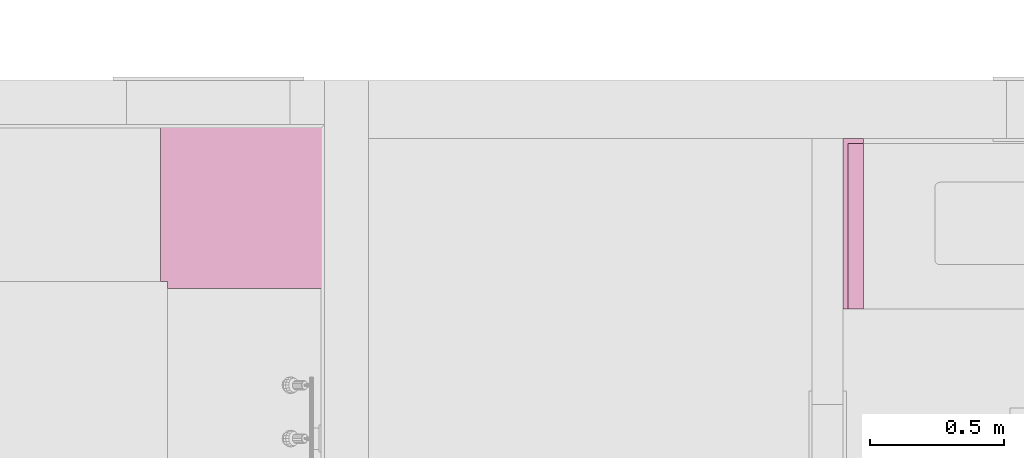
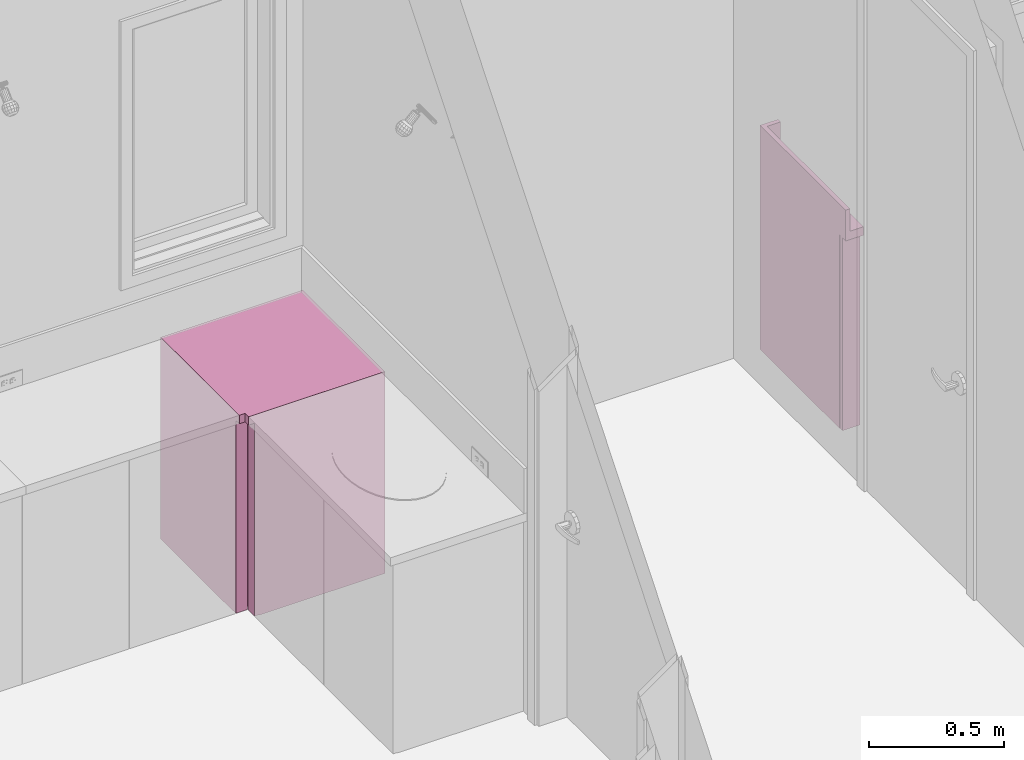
# One storey, part 52 of 103: 2 furnishings.
"""IFC2X3 building model written with IfcOpenShell, lengths in inches."""

from ifc_helpers import new_model, entity, si_unit, converted_unit, derived_unit, money_unit, direction, frame, origin_with_axes, place, context, subcontext, project, spatial, faceted_brep, type_object, element, save


model = new_model("IFC2X3")

# Units and contexts
model_context = context("Model", 3, precision=0.00039370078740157, world=origin_with_axes(), true_north=direction((0.0, 1.0)))
plan_context = context("Plan", 3, precision=0.00039370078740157, world=origin_with_axes(), true_north=direction((0.0, 1.0)))
body_context = subcontext(model_context, "Body", "Model", "MODEL_VIEW")
ifc_project = project(units=[converted_unit("LENGTHUNIT", "INCH", entity("IfcPositiveLengthMeasure", 0.0254), si_unit("LENGTHUNIT", "METRE"), dimensions=[1, 0, 0, 0, 0, 0, 0]), converted_unit("AREAUNIT", "SQUARE_FOOT", entity("IfcPositiveLengthMeasure", 0.09290304), si_unit("AREAUNIT", "SQUARE_METRE"), dimensions=[2, 0, 0, 0, 0, 0, 0]), si_unit("PLANEANGLEUNIT", "RADIAN"), si_unit("SOLIDANGLEUNIT", "STERADIAN"), money_unit("USD"), converted_unit("TIMEUNIT", "Year", entity("IfcTimeMeasure", 31557600.0), si_unit("TIMEUNIT", "SECOND"), dimensions=[0, 0, 1, 0, 0, 0, 0]), si_unit("MASSUNIT", "GRAM", prefix="KILO"), si_unit("THERMODYNAMICTEMPERATUREUNIT", "DEGREE_CELSIUS"), si_unit("LUMINOUSINTENSITYUNIT", "LUMEN"), si_unit("ENERGYUNIT", "JOULE", prefix="MEGA"), derived_unit("SPECIFICHEATCAPACITYUNIT", [(si_unit("ENERGYUNIT", "JOULE"), 1), (si_unit("MASSUNIT", "GRAM", prefix="KILO"), -1), (si_unit("THERMODYNAMICTEMPERATUREUNIT", "KELVIN"), -1)])], contexts=[model_context, plan_context])

# Site, building, storey
site_placement = place(None, origin_with_axes())
site = spatial("IfcSite", under=ifc_project, at=site_placement, Name="Site", CompositionType="ELEMENT")
building_placement = place(site_placement, origin_with_axes())
building = spatial("IfcBuilding", under=site, at=building_placement, Name="Building", CompositionType="ELEMENT")
storey_placement = place(building_placement, frame((0.0, 0.0, 127.9999999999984), z_axis=(0.0, 0.0, 1.0), x_axis=(1.0, 0.0, 0.0)))
storey = spatial("IfcBuildingStorey", under=building, at=storey_placement, Name="Second Floor", CompositionType="ELEMENT", Elevation=128.0)

# Furnishings
furniture_type_1 = type_object("IfcFurnitureType", Name="Base Cabinet Block", AssemblyPlace="NOTDEFINED")
furnishing_1_placement = place(storey_placement, frame((164.9999999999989, 568.0000000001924, 0.0), z_axis=(0.0, 0.0, 1.0), x_axis=(1.0, 0.0, 0.0)))
element("IfcFurnishingElement", 1, at=furnishing_1_placement, inside=storey, type_object=furniture_type_1, Name="FU - 007", context=body_context, shape_type="Brep", body=[
    faceted_brep([(0.0, -24.99999999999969, 34.49999999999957), (2.999999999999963, -24.99999999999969, 34.49999999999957), (2.999999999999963, -24.99999999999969, 35.99999999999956), (0.0, -24.99999999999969, 35.99999999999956), (0.0, 0.0, 34.49999999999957), (2.999999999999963, 0.0, 34.49999999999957), (2.999999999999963, 0.0, 35.99999999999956), (0.0, 0.0, 35.99999999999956)], [[[0, 1, 2, 3]], [[0, 4, 5, 1]], [[1, 5, 6, 2]], [[3, 2, 6, 7]], [[4, 0, 3, 7]], [[5, 4, 7, 6]]]),
    faceted_brep([(2.999999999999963, 0.0, 35.99999999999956), (2.999999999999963, -0.7499999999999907, 35.99999999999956), (0.7499999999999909, -0.7499999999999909, 35.99999999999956), (0.0, 0.0, 35.99999999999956), (2.999999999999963, 0.0, 39.99999999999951), (2.999999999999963, -0.7499999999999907, 39.99999999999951), (0.7499999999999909, -0.7499999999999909, 39.99999999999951), (0.0, 0.0, 39.99999999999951)], [[[0, 1, 2, 3]], [[0, 4, 5, 1]], [[1, 5, 6, 2]], [[3, 2, 6, 7]], [[4, 0, 3, 7]], [[5, 4, 7, 6]]]),
    faceted_brep([(0.0, 0.0, 35.99999999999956), (0.7499999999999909, -0.7499999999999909, 35.99999999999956), (0.7499999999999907, -24.99999999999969, 35.99999999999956), (0.0, -24.99999999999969, 35.99999999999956), (0.0, 0.0, 39.99999999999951), (0.7499999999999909, -0.7499999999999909, 39.99999999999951), (0.7499999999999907, -24.99999999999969, 39.99999999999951), (0.0, -24.99999999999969, 39.99999999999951)], [[[0, 1, 2, 3]], [[0, 4, 5, 1]], [[1, 5, 6, 2]], [[3, 2, 6, 7]], [[4, 0, 3, 7]], [[5, 4, 7, 6]]]),
    faceted_brep([(0.039370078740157, -23.24999999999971, 0.039370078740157), (2.960629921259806, -23.24999999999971, 0.039370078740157), (2.960629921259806, -23.9999999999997, 0.03937007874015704), (0.039370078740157, -23.9999999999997, 0.03937007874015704), (0.039370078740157, -23.24999999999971, 34.46062992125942), (2.960629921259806, -23.24999999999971, 34.46062992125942), (2.960629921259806, -23.9999999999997, 34.46062992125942), (0.039370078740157, -23.9999999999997, 34.46062992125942)], [[[0, 1, 2, 3]], [[0, 4, 5, 1]], [[1, 5, 6, 2]], [[3, 2, 6, 7]], [[4, 0, 3, 7]], [[5, 4, 7, 6]]]),
    faceted_brep([(0.7499999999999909, -23.24999999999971, 0.0), (2.249999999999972, -23.24999999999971, 0.0), (2.249999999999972, -23.24999999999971, 0.7499999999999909), (0.7499999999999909, -23.24999999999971, 0.7499999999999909), (0.7499999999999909, 0.0, 0.0), (2.249999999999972, 0.0, 0.0), (2.249999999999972, 0.0, 0.7499999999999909), (0.7499999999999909, 0.0, 0.7499999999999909)], [[[0, 1, 2, 3]], [[0, 4, 5, 1]], [[1, 5, 6, 2]], [[3, 2, 6, 7]], [[4, 0, 3, 7]], [[5, 4, 7, 6]]]),
    faceted_brep([(0.7499999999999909, -23.24999999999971, 33.74999999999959), (0.7499999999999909, -20.88779527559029, 33.74999999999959), (2.249999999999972, -20.88779527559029, 33.74999999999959), (2.249999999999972, -23.24999999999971, 33.74999999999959), (0.7499999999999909, -23.24999999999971, 34.49999999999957), (0.7499999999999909, -20.88779527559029, 34.49999999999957), (2.249999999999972, -20.88779527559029, 34.49999999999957), (2.249999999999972, -23.24999999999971, 34.49999999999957)], [[[0, 1, 2, 3]], [[0, 4, 5, 1]], [[1, 5, 6, 2]], [[3, 2, 6, 7]], [[4, 0, 3, 7]], [[5, 4, 7, 6]]]),
    faceted_brep([(2.249999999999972, 0.0, 33.74999999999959), (2.249999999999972, -2.36220472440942, 33.74999999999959), (0.7499999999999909, -2.36220472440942, 33.74999999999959), (0.7499999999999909, 0.0, 33.74999999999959), (2.249999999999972, 0.0, 34.49999999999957), (2.249999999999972, -2.36220472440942, 34.49999999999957), (0.7499999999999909, -2.36220472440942, 34.49999999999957), (0.7499999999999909, 0.0, 34.49999999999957)], [[[0, 1, 2, 3]], [[0, 4, 5, 1]], [[1, 5, 6, 2]], [[3, 2, 6, 7]], [[4, 0, 3, 7]], [[5, 4, 7, 6]]]),
    faceted_brep([(0.0, 0.0, 0.0), (0.0, -23.24999999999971, 0.0), (0.0, -23.24999999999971, 34.49999999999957), (0.0, 0.0, 34.49999999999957), (0.7499999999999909, 0.0, 0.0), (0.7499999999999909, -23.24999999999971, 0.0), (0.7499999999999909, -23.24999999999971, 34.49999999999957), (0.7499999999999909, 0.0, 34.49999999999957)], [[[0, 1, 2, 3]], [[0, 4, 5, 1]], [[1, 5, 6, 2]], [[3, 2, 6, 7]], [[4, 0, 3, 7]], [[5, 4, 7, 6]]]),
    faceted_brep([(2.999999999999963, -23.24999999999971, 0.0), (2.999999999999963, 0.0, 0.0), (2.999999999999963, 0.0, 34.49999999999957), (2.999999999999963, -23.24999999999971, 34.49999999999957), (2.249999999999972, -23.24999999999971, 0.0), (2.249999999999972, 0.0, 0.0), (2.249999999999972, 0.0, 34.49999999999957), (2.249999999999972, -23.24999999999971, 34.49999999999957)], [[[0, 1, 2, 3]], [[0, 4, 5, 1]], [[1, 5, 6, 2]], [[3, 2, 6, 7]], [[4, 0, 3, 7]], [[5, 4, 7, 6]]]),
    faceted_brep([(2.249999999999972, -0.3749999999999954, 0.7499999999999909), (0.7499999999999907, -0.3749999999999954, 0.7499999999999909), (0.7499999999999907, -0.3749999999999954, 33.74999999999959), (2.249999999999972, -0.3749999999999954, 33.74999999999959), (2.249999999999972, -0.7499999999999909, 0.7499999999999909), (0.7499999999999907, -0.7499999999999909, 0.7499999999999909), (0.7499999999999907, -0.7499999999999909, 33.74999999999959), (2.249999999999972, -0.7499999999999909, 33.74999999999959)], [[[0, 1, 2, 3]], [[0, 4, 5, 1]], [[1, 5, 6, 2]], [[3, 2, 6, 7]], [[4, 0, 3, 7]], [[5, 4, 7, 6]]]),
])
furniture_type_2 = type_object("IfcFurnitureType", Name="Base Cabinet Corner L", AssemblyPlace="NOTDEFINED")
furnishing_2_placement = place(storey_placement, frame((89.0000288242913, 570.0000000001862, 0.0), z_axis=(0.0, 0.0, 1.0), x_axis=(9.406550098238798e-08, -0.9999999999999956, 0.0)))
element("IfcFurnishingElement", 2, at=furnishing_2_placement, inside=storey, type_object=furniture_type_2, Name="FU - 025", context=body_context, shape_type="Brep", body=[
    faceted_brep([(0.0, -23.99999999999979, 34.49999999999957), (22.99999999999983, -23.99999999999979, 34.49999999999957), (22.99999999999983, -23.99999999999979, 35.99999999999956), (0.0, -23.99999999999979, 35.99999999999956), (0.0, -22.99999999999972, 34.49999999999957), (22.99999999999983, -22.99999999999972, 34.49999999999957), (22.99999999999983, -22.99999999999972, 35.99999999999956), (0.0, -22.99999999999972, 35.99999999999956)], [[[0, 1, 2, 3]], [[0, 4, 5, 1]], [[1, 5, 6, 2]], [[3, 2, 6, 7]], [[4, 0, 3, 7]], [[5, 4, 7, 6]]]),
    faceted_brep([(0.0, -22.99999999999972, 34.49999999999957), (23.9999999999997, -22.99999999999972, 34.49999999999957), (23.9999999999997, -22.99999999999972, 35.99999999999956), (0.0, -22.99999999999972, 35.99999999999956), (0.0, 0.0, 34.49999999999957), (23.9999999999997, 0.0, 34.49999999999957), (23.9999999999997, 0.0, 35.99999999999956), (0.0, 0.0, 35.99999999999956)], [[[0, 1, 2, 3]], [[0, 4, 5, 1]], [[1, 5, 6, 2]], [[3, 2, 6, 7]], [[4, 0, 3, 7]], [[5, 4, 7, 6]]]),
    faceted_brep([(23.96062992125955, -21.24999999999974, 0.039370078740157), (23.96062992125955, -21.99999999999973, 0.03937007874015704), (22.03209111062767, -21.99999999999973, 0.03937007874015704), (22.03209111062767, -21.24999999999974, 0.039370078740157), (23.96062992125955, -21.24999999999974, 34.46062992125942), (23.96062992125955, -21.99999999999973, 34.46062992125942), (22.03209111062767, -21.99999999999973, 34.46062992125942), (22.03209111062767, -21.24999999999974, 34.46062992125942)], [[[0, 1, 2, 3]], [[4, 5, 1, 0]], [[1, 5, 6, 2]], [[3, 2, 6, 7]], [[0, 3, 7, 4]], [[7, 6, 5, 4]]]),
    faceted_brep([(21.24272103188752, -22.03937007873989, 0.039370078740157), (21.99272103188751, -22.03937007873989, 0.03937007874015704), (21.99272103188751, -23.96062992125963, 0.03937007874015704), (21.24272103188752, -23.96062992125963, 0.039370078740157), (21.24272103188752, -22.03937007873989, 34.46062992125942), (21.99272103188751, -22.03937007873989, 34.46062992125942), (21.99272103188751, -23.96062992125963, 34.46062992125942), (21.24272103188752, -23.96062992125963, 34.46062992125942)], [[[0, 1, 2, 3]], [[4, 5, 1, 0]], [[1, 5, 6, 2]], [[3, 2, 6, 7]], [[0, 3, 7, 4]], [[7, 6, 5, 4]]]),
    faceted_brep([(0.0, -23.2499999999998, 0.0), (21.24272103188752, -23.2499999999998, 0.0), (21.24272103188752, -23.2499999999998, 0.7499999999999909), (0.0, -23.2499999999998, 0.7499999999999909), (0.0, 0.0, 0.0), (23.24999999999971, 0.0, 0.0), (23.24999999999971, -21.24999999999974, 0.0), (21.24272103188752, -21.24999999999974, 0.0), (21.24272103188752, -21.24999999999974, 0.7499999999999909), (23.24999999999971, -21.24999999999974, 0.7499999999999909), (23.24999999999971, 0.0, 0.7499999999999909), (0.0, 0.0, 0.7499999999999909)], [[[0, 1, 2, 3]], [[0, 4, 5, 6, 7, 1]], [[1, 7, 8, 2]], [[3, 2, 8, 9, 10, 11]], [[4, 0, 3, 11]], [[5, 4, 11, 10]], [[6, 5, 10, 9]], [[7, 6, 9, 8]]]),
    faceted_brep([(21.24272103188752, -23.2499999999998, 33.74999999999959), (18.8805163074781, -23.2499999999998, 33.74999999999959), (18.8805163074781, -18.88779527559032, 33.74999999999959), (21.24272103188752, -21.24999999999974, 33.74999999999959), (21.24272103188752, -23.2499999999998, 34.49999999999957), (18.8805163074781, -23.2499999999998, 34.49999999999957), (18.8805163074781, -18.88779527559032, 34.49999999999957), (21.24272103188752, -21.24999999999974, 34.49999999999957)], [[[0, 1, 2, 3]], [[0, 4, 5, 1]], [[1, 5, 6, 2]], [[3, 2, 6, 7]], [[4, 0, 3, 7]], [[5, 4, 7, 6]]]),
    faceted_brep([(21.24272103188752, -21.24999999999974, 33.74999999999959), (18.8805163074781, -18.88779527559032, 33.74999999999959), (23.24999999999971, -18.88779527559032, 33.74999999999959), (23.24999999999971, -21.24999999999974, 33.74999999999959), (21.24272103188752, -21.24999999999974, 34.49999999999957), (18.8805163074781, -18.88779527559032, 34.49999999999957), (23.24999999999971, -18.88779527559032, 34.49999999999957), (23.24999999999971, -21.24999999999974, 34.49999999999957)], [[[0, 1, 2, 3]], [[0, 4, 5, 1]], [[1, 5, 6, 2]], [[3, 2, 6, 7]], [[4, 0, 3, 7]], [[5, 4, 7, 6]]]),
    faceted_brep([(23.24999999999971, 0.0, 33.74999999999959), (23.24999999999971, -2.362204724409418, 33.74999999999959), (2.36220472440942, -2.36220472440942, 33.74999999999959), (0.0, 0.0, 33.74999999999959), (23.24999999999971, 0.0, 34.49999999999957), (23.24999999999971, -2.362204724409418, 34.49999999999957), (2.36220472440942, -2.36220472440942, 34.49999999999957), (0.0, 0.0, 34.49999999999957)], [[[0, 1, 2, 3]], [[0, 4, 5, 1]], [[1, 5, 6, 2]], [[3, 2, 6, 7]], [[4, 0, 3, 7]], [[5, 4, 7, 6]]]),
    faceted_brep([(0.0, 0.0, 33.74999999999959), (2.36220472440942, -2.36220472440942, 33.74999999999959), (2.36220472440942, -23.2499999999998, 33.74999999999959), (0.0, -23.2499999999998, 33.74999999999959), (0.0, 0.0, 34.49999999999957), (2.36220472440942, -2.36220472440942, 34.49999999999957), (2.36220472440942, -23.2499999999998, 34.49999999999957), (0.0, -23.2499999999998, 34.49999999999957)], [[[0, 1, 2, 3]], [[0, 4, 5, 1]], [[1, 5, 6, 2]], [[3, 2, 6, 7]], [[4, 0, 3, 7]], [[5, 4, 7, 6]]]),
    faceted_brep([(0.0, -23.99999999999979, 0.0), (21.24272103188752, -23.99999999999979, 0.0), (21.24272103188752, -23.99999999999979, 34.49999999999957), (0.0, -23.99999999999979, 34.49999999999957), (0.0, -23.2499999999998, 0.0), (21.24272103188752, -23.2499999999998, 0.0), (21.24272103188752, -23.2499999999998, 34.49999999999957), (0.0, -23.2499999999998, 34.49999999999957)], [[[0, 1, 2, 3]], [[0, 4, 5, 1]], [[1, 5, 6, 2]], [[3, 2, 6, 7]], [[4, 0, 3, 7]], [[5, 4, 7, 6]]]),
    faceted_brep([(0.0, 0.0, 0.7499999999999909), (0.0, -23.2499999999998, 0.7499999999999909), (0.0, -23.2499999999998, 33.74999999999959), (0.0, 0.0, 33.74999999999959), (0.7499999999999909, -0.7499999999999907, 0.7499999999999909), (0.7499999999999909, -23.2499999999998, 0.7499999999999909), (0.7499999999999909, -23.2499999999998, 33.74999999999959), (0.7499999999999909, -0.7499999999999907, 33.74999999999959)], [[[0, 1, 2, 3]], [[0, 4, 5, 1]], [[1, 5, 6, 2]], [[3, 2, 6, 7]], [[4, 0, 3, 7]], [[5, 4, 7, 6]]]),
    faceted_brep([(23.9999999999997, -21.24999999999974, 0.0), (23.9999999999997, 0.0, 0.0), (23.9999999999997, 0.0, 34.49999999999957), (23.9999999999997, -21.24999999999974, 34.49999999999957), (23.24999999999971, -21.24999999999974, 0.0), (23.24999999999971, 0.0, 0.0), (23.24999999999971, 0.0, 34.49999999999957), (23.24999999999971, -21.24999999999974, 34.49999999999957)], [[[0, 1, 2, 3]], [[0, 4, 5, 1]], [[1, 5, 6, 2]], [[3, 2, 6, 7]], [[4, 0, 3, 7]], [[5, 4, 7, 6]]]),
    faceted_brep([(23.24999999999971, 0.0, 0.7499999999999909), (0.0, 0.0, 0.7499999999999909), (0.0, 0.0, 33.74999999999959), (23.24999999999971, 0.0, 33.74999999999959), (23.24999999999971, -0.7499999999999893, 0.7499999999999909), (0.7499999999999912, -0.7499999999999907, 0.7499999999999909), (0.7499999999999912, -0.7499999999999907, 33.74999999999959), (23.24999999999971, -0.7499999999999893, 33.74999999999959)], [[[0, 1, 2, 3]], [[0, 4, 5, 1]], [[1, 5, 6, 2]], [[3, 2, 6, 7]], [[4, 0, 3, 7]], [[5, 4, 7, 6]]]),
])

save(model, "model.ifc")
